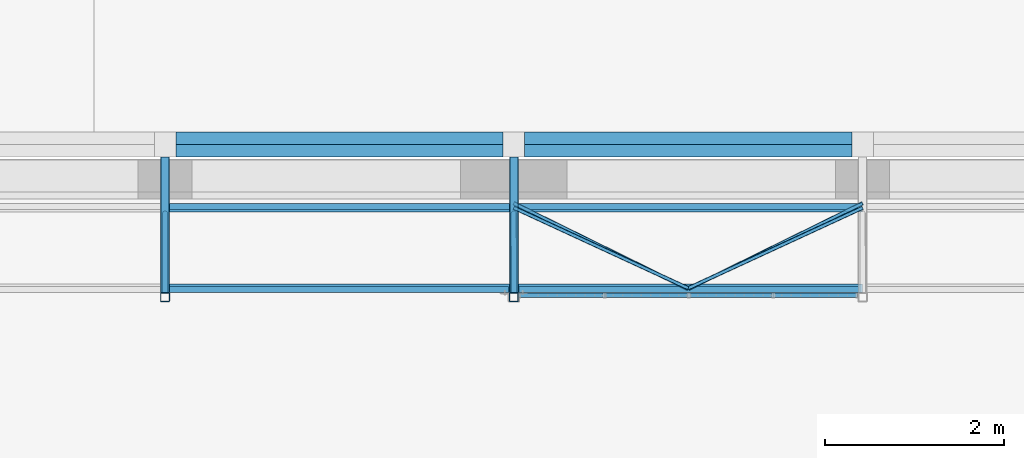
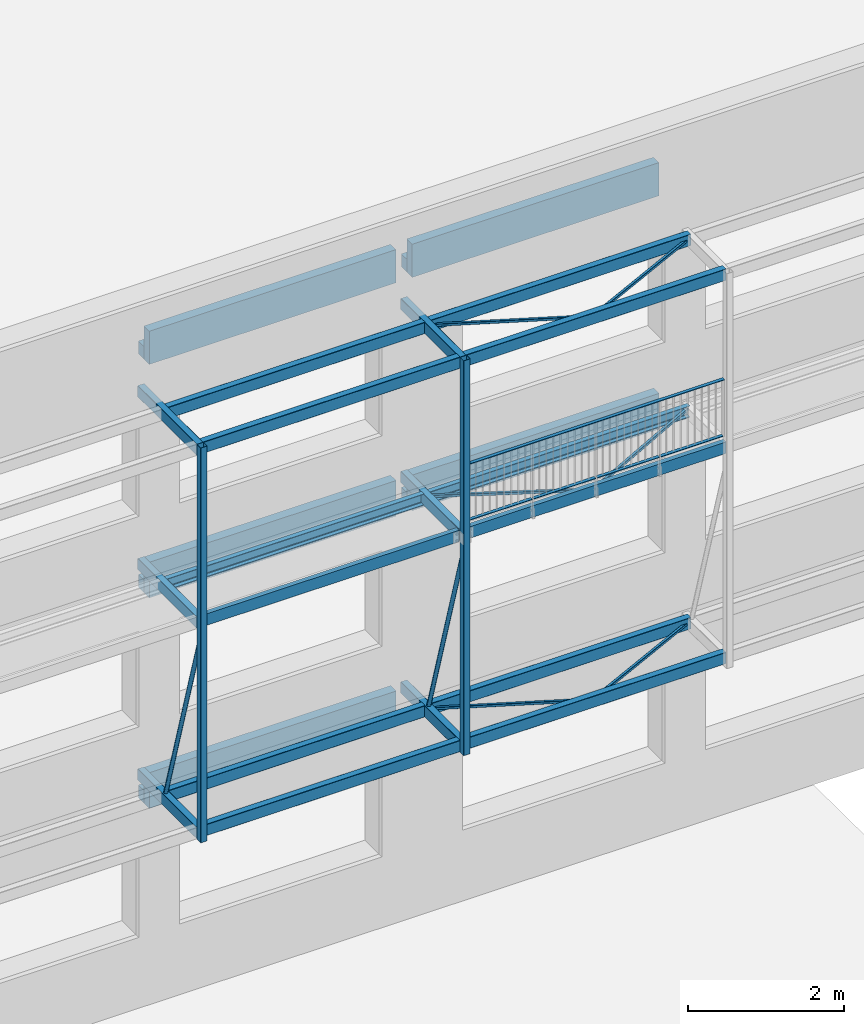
# One storey, part 22 of 78: 38 beams, 2 members, 31 elements without a shape of their own.
"""IFC2X3 building model written with IfcOpenShell, lengths in millimetres."""

import ifcopenshell
import ifcopenshell.guid

model = None  # the IFC model being written
_history = None  # IfcOwnerHistory: only IFC2X3 demands one
_inside = {}  # id of a spatial element -> (the spatial element, [elements in it])
_under = {}  # id of a project, library or spatial element -> (it, [spatial elements below it])
_declared = {}  # id of a project -> (the project, [libraries it declares])
_typed = {}  # id of a type object -> (the type object, [elements of that type])
_made_of = {}  # id of a material, layer set ... -> (it, [elements and type objects made of it])


def new_model(schema):
    """Start an empty IFC model of exactly this schema.

    Asked for "IFC4X3", IfcOpenShell would pick the latest addendum, in which some entities
    have other attributes; the version numbers below select the first issue.
    IFC2X3 requires an IfcOwnerHistory on every rooted entity: one is made here for all.
    """
    global model, _history
    if schema == "IFC4X3":
        model = ifcopenshell.file(schema_version=(4, 3, 0, 0))
    else:
        model = ifcopenshell.file(schema=schema)
    _inside.clear()
    _under.clear()
    _declared.clear()
    _typed.clear()
    _made_of.clear()
    _history = None
    if model.schema == "IFC2X3":
        org = make("IfcOrganization", Name="unknown")
        user = make(
            "IfcPersonAndOrganization",
            ThePerson=make("IfcPerson", FamilyName="unknown"),
            TheOrganization=org,
        )
        app = make(
            "IfcApplication",
            ApplicationDeveloper=org,
            Version="unknown",
            ApplicationFullName="unknown",
            ApplicationIdentifier="unknown",
        )
        _history = make(
            "IfcOwnerHistory",
            OwningUser=user,
            OwningApplication=app,
            ChangeAction="ADDED",
            CreationDate=0,
        )
    return model


def make(cls, **values):
    """One entity of the class cls with the attributes given. An attribute that is None is left unset."""
    return model.create_entity(
        cls, **{name: value for name, value in values.items() if value is not None}
    )


def rooted(cls, **values):
    """An entity with a GlobalId (a new one), such as an element, a storey or a relation."""
    return make(cls, GlobalId=ifcopenshell.guid.new(), OwnerHistory=_history, **values)


def si_unit(unit_type, name, prefix=None):
    """IfcSIUnit, for example si_unit("LENGTHUNIT", "METRE", prefix="MILLI")."""
    return make("IfcSIUnit", UnitType=unit_type, Prefix=prefix, Name=name)


def assignment(units):
    """IfcUnitAssignment: the units of a project."""
    return None if units is None else make("IfcUnitAssignment", Units=units)


def point(xyz):
    """IfcCartesianPoint."""
    return None if xyz is None else make("IfcCartesianPoint", Coordinates=xyz)


def direction(xyz):
    """IfcDirection."""
    return None if xyz is None else make("IfcDirection", DirectionRatios=xyz)


def frame(location, z_axis=None, x_axis=None):
    """IfcAxis2Placement3D, a coordinate frame: its origin and axes. An axis left out is left unset."""
    return make(
        "IfcAxis2Placement3D",
        Location=point(location),
        Axis=direction(z_axis),
        RefDirection=direction(x_axis),
    )


def frame_2d(location, x_axis=None):
    """IfcAxis2Placement2D, a coordinate frame in the plane: its origin and x axis."""
    return make(
        "IfcAxis2Placement2D", Location=point(location), RefDirection=direction(x_axis)
    )


def origin_with_axes():
    """The frame at (0, 0, 0) with the z axis (0, 0, 1) and the x axis (1, 0, 0) written out."""
    return frame((0.0, 0.0, 0.0), z_axis=(0.0, 0.0, 1.0), x_axis=(1.0, 0.0, 0.0))


def origin_2d_with_axis():
    """The frame at (0, 0) in the plane with the x axis (1, 0) written out."""
    return frame_2d((0.0, 0.0), x_axis=(1.0, 0.0))


def place(relative_to, where):
    """IfcLocalPlacement: puts the frame where relative to a parent placement (None: the world)."""
    return make(
        "IfcLocalPlacement", PlacementRelTo=relative_to, RelativePlacement=where
    )


def context(
    kind, dimensions, precision=None, world=None, true_north=None, identifier=None
):
    """IfcGeometricRepresentationContext, for example the 3D "Model" context."""
    return make(
        "IfcGeometricRepresentationContext",
        ContextIdentifier=identifier,
        ContextType=kind,
        CoordinateSpaceDimension=dimensions,
        Precision=precision,
        WorldCoordinateSystem=world,
        TrueNorth=true_north,
    )


def subcontext(parent, identifier, kind, view, scale=None):
    """IfcGeometricRepresentationSubContext, for example "Body" below "Model"."""
    return make(
        "IfcGeometricRepresentationSubContext",
        ContextIdentifier=identifier,
        ContextType=kind,
        ParentContext=parent,
        TargetScale=scale,
        TargetView=view,
    )


def project(units=None, contexts=None):
    """IfcProject with its units and contexts."""
    return rooted(
        "IfcProject",
        Name="project",
        RepresentationContexts=contexts,
        UnitsInContext=assignment(units),
    )


def spatial(cls, under=None, at=None, **own):
    """A site, building, storey or space (cls), placed at a placement, below another one or the project."""
    s = rooted(cls, ObjectPlacement=at, **own)
    if under is not None:
        _under.setdefault(under.id(), (under, []))[1].append(s)
    return s


def profile(cls, at=None, kind="AREA", **sizes):
    """A parametric profile (cls). Its sizes go by their IFC names, for example OverallWidth=200.0."""
    return make(cls, ProfileType=kind, Position=at, **sizes)


def rectangle(**sizes):
    """IfcRectangleProfileDef."""
    return profile("IfcRectangleProfileDef", **sizes)


def hollow_rectangle(**sizes):
    """IfcRectangleHollowProfileDef."""
    return profile("IfcRectangleHollowProfileDef", **sizes)


def hollow_circle(**sizes):
    """IfcCircleHollowProfileDef."""
    return profile("IfcCircleHollowProfileDef", **sizes)


def u_section(**sizes):
    """IfcUShapeProfileDef."""
    return profile("IfcUShapeProfileDef", **sizes)


def extrude(swept, where, along, depth):
    """IfcExtrudedAreaSolid: the profile swept, set in the frame where, extruded along a direction by depth."""
    return make(
        "IfcExtrudedAreaSolid",
        SweptArea=swept,
        Position=where,
        ExtrudedDirection=direction(along),
        Depth=depth,
    )


def boolean(op, a, b):
    """IfcBooleanResult of two solids."""
    return make("IfcBooleanResult", Operator=op, FirstOperand=a, SecondOperand=b)


def clip(a, b, op="DIFFERENCE"):
    """IfcBooleanClippingResult: the solid a cut by the half space b."""
    return make(
        "IfcBooleanClippingResult", Operator=op, FirstOperand=a, SecondOperand=b
    )


def halfspace(plane, agree):
    """IfcHalfSpaceSolid: all space on one side of the plane z = 0 of the frame plane."""
    return make(
        "IfcHalfSpaceSolid",
        BaseSurface=make("IfcPlane", Position=plane),
        AgreementFlag=agree,
    )


def shape(context_of_items, identifier, shape_type, items):
    """IfcShapeRepresentation: the items that make up one representation, for example the "Body"."""
    return make(
        "IfcShapeRepresentation",
        ContextOfItems=context_of_items,
        RepresentationIdentifier=identifier,
        RepresentationType=shape_type,
        Items=items,
    )


def material(Name=None, Category=None):
    """IfcMaterial."""
    return make("IfcMaterial", Name=Name, Category=Category)


def made_of(thing, what):
    """Note that an element or type object is made of a material, layer set ...; save() writes the relation."""
    if what is not None:
        _made_of.setdefault(what.id(), (what, []))[1].append(thing)
    return thing


def type_object(cls, material=None, **own):
    """A type object (cls), such as IfcWallType, which elements share."""
    return made_of(rooted(cls, **own), material)


def element(
    cls,
    number,
    at=None,
    inside=None,
    cuts=None,
    type_object=None,
    material=None,
    context=None,
    identifier="Body",
    shape_type=None,
    held_by="IfcProductDefinitionShape",
    body=None,
    shapes=None,
    **own,
):
    """One element of the class cls, such as IfcWall. Its Tag is "e" and its number.

    at: its placement. inside: the storey or other place that contains it. cuts: it is an
    opening in that element (IfcRelVoidsElement). A single representation is given by context,
    identifier, shape_type and body (its items); several are given by shapes. held_by: the class
    of the entity that holds the representations. save() writes the other relations.
    """
    e = rooted(cls, Tag="e%d" % number, ObjectPlacement=at, **own)
    if body is not None:
        shapes = [shape(context, identifier, shape_type, body)]
    if shapes is not None:
        e.Representation = make(held_by, Representations=shapes)
    if inside is not None:
        _inside.setdefault(inside.id(), (inside, []))[1].append(e)
    if cuts is not None:
        rooted(
            "IfcRelVoidsElement", RelatingBuildingElement=cuts, RelatedOpeningElement=e
        )
    if type_object is not None:
        _typed.setdefault(type_object.id(), (type_object, []))[1].append(e)
    return made_of(e, material)


def aggregate(whole, parts):
    """IfcRelAggregates: a whole, such as a stair, and the parts it consists of."""
    return rooted("IfcRelAggregates", RelatingObject=whole, RelatedObjects=parts)


def save(model, path):
    """Write the relations noted so far, then the file.

    IfcRelAggregates (storeys below a building ...), IfcRelContainedInSpatialStructure (elements
    in a storey), IfcRelDefinesByType, IfcRelAssociatesMaterial and IfcRelDeclares: one each for
    every whole, place, type object, material and project.
    """
    for whole, parts in _under.values():
        aggregate(whole, parts)
    for where, things in _inside.values():
        rooted(
            "IfcRelContainedInSpatialStructure",
            RelatedElements=things,
            RelatingStructure=where,
        )
    for kind, things in _typed.values():
        rooted("IfcRelDefinesByType", RelatedObjects=things, RelatingType=kind)
    for what, things in _made_of.values():
        rooted("IfcRelAssociatesMaterial", RelatedObjects=things, RelatingMaterial=what)
    for by, libraries in _declared.values():
        rooted("IfcRelDeclares", RelatingContext=by, RelatedDefinitions=libraries)
    model.write(path)


model = new_model("IFC2X3")

# Units and contexts
model_context = context("Model", 3, precision=1e-05, world=origin_with_axes())
body_context = subcontext(model_context, "Body", "Model", "MODEL_VIEW")
ifc_project = project(units=[si_unit("LENGTHUNIT", "METRE", prefix="MILLI"), si_unit("AREAUNIT", "SQUARE_METRE"), si_unit("VOLUMEUNIT", "CUBIC_METRE"), si_unit("MASSUNIT", "GRAM", prefix="KILO"), si_unit("TIMEUNIT", "SECOND"), si_unit("PLANEANGLEUNIT", "RADIAN"), si_unit("SOLIDANGLEUNIT", "STERADIAN"), si_unit("THERMODYNAMICTEMPERATUREUNIT", "DEGREE_CELSIUS"), si_unit("LUMINOUSINTENSITYUNIT", "LUMEN")], contexts=[model_context])

# Site, building, storey
site_placement = place(None, origin_with_axes())
site = spatial("IfcSite", under=ifc_project, at=site_placement, Name="Site", CompositionType="ELEMENT")
building_placement = place(site_placement, origin_with_axes())
building = spatial("IfcBuilding", under=site, at=building_placement, Name="Undefined", CompositionType="ELEMENT")
storey_placement = place(building_placement, origin_with_axes())
storey = spatial("IfcBuildingStorey", under=building, at=storey_placement, Name="Undefined", CompositionType="ELEMENT", Elevation=0.0)

# Assembly, beams
assembly_1_placement = place(storey_placement, origin_with_axes())
assembly_1 = element("IfcElementAssembly", 1, at=assembly_1_placement, inside=storey, Name="MAIN_COURANTE", AssemblyPlace="NOTDEFINED", PredefinedType="RIGID_FRAME")
ifc_material_1 = material(Name="STEEL/S235JR")
beam_type_1 = type_object("IfcBeamType", Name="PL10*50", PredefinedType="NOTDEFINED")
beam_1_placement = place(assembly_1_placement, frame((-18840.0, -8643.0, 160115.04), z_axis=(0.0, 1.0, 0.0), x_axis=(-1.0, 0.0, 0.0)))
solid_1 = boolean("DIFFERENCE", boolean("DIFFERENCE", extrude(rectangle(XDim=20.0, YDim=50.0, at=origin_2d_with_axis()), frame((10.0000000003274, 885.0, -2.18278728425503e-10), z_axis=(0.0, -1.0, 0.0), x_axis=(1.0, 0.0, 0.0)), (0.0, 0.0, 1.0), 1190.0), halfspace(frame((10.0000000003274, 875.0, -2.18278728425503e-11), z_axis=(0.0, 1.0, 0.0), x_axis=(0.0, 0.0, -1.0)), False)), halfspace(frame((-999.999999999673, -305.0, -2.18278728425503e-10), z_axis=(0.0, 1.0, 0.0), x_axis=(0.0, 0.0, -1.0)), True))
solid_2 = boolean("DIFFERENCE", boolean("DIFFERENCE", extrude(rectangle(XDim=20.0, YDim=50.0, at=origin_2d_with_axis()), frame((952.5, 885.0, 0.0), z_axis=(0.0, -1.0, 0.0), x_axis=(1.0, 0.0, 0.0)), (0.0, 0.0, 1.0), 1190.0), halfspace(frame((952.5, 875.0, 0.0), z_axis=(0.0, 1.0, 0.0), x_axis=(0.0, 0.0, -1.0)), False)), halfspace(frame((-57.5, -305.0, 0.0), z_axis=(0.0, 1.0, 0.0), x_axis=(0.0, 0.0, -1.0)), True))
solid_3 = boolean("DIFFERENCE", boolean("DIFFERENCE", extrude(rectangle(XDim=20.0, YDim=50.0, at=origin_2d_with_axis()), frame((1895.0, 885.0, 0.0), z_axis=(0.0, -1.0, 0.0), x_axis=(1.0, 0.0, 0.0)), (0.0, 0.0, 1.0), 1190.0), halfspace(frame((1895.0, 875.0, 0.0), z_axis=(0.0, 1.0, 0.0), x_axis=(0.0, 0.0, -1.0)), False)), halfspace(frame((884.999999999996, -305.0, 0.0), z_axis=(0.0, 1.0, 0.0), x_axis=(0.0, 0.0, -1.0)), True))
solid_4 = boolean("DIFFERENCE", boolean("DIFFERENCE", extrude(rectangle(XDim=20.0, YDim=50.0, at=origin_2d_with_axis()), frame((2837.5, 885.0, 0.0), z_axis=(0.0, -1.0, 0.0), x_axis=(1.0, 0.0, 0.0)), (0.0, 0.0, 1.0), 1190.0), halfspace(frame((2837.5, 875.0, 0.0), z_axis=(0.0, 1.0, 0.0), x_axis=(0.0, 0.0, -1.0)), False)), halfspace(frame((1827.5, -305.0, 0.0), z_axis=(0.0, 1.0, 0.0), x_axis=(0.0, 0.0, -1.0)), True))
solid_5 = boolean("DIFFERENCE", boolean("DIFFERENCE", extrude(rectangle(XDim=20.0, YDim=50.0, at=origin_2d_with_axis()), frame((3779.99999999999, 885.0, 0.0), z_axis=(0.0, -1.0, 0.0), x_axis=(1.0, 0.0, 0.0)), (0.0, 0.0, 1.0), 1190.0), halfspace(frame((3779.99999999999, 875.0, 0.0), z_axis=(0.0, 1.0, 0.0), x_axis=(0.0, 0.0, -1.0)), False)), halfspace(frame((2769.99999999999, -305.0, 0.0), z_axis=(0.0, 1.0, 0.0), x_axis=(0.0, 0.0, -1.0)), True))
beam_1 = element("IfcBeam", 2, at=beam_1_placement, type_object=beam_type_1, material=ifc_material_1, Name="LISSE", ObjectType="PL10*50", context=body_context, shape_type="CSG", body=[
    boolean("DIFFERENCE", boolean("DIFFERENCE", boolean("DIFFERENCE", boolean("DIFFERENCE", boolean("DIFFERENCE", extrude(rectangle(XDim=10.0, YDim=50.0, at=origin_2d_with_axis()), frame((3789.99999999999, 0.0, 0.0), z_axis=(-1.0, 0.0, 0.0), x_axis=(0.0, -1.0, 0.0)), (0.0, 0.0, 1.0), 3790.0), solid_1), solid_2), solid_3), solid_4), solid_5),
])
beam_2_placement = place(assembly_1_placement, frame((-22630.0, -8643.0, 160995.04), z_axis=(0.0, 1.0, 0.0), x_axis=(1.0, 0.0, 0.0)))
beam_2 = element("IfcBeam", 3, at=beam_2_placement, type_object=beam_type_1, material=ifc_material_1, Name="MAIN_COURANTE", ObjectType="PL10*50", context=body_context, shape_type="SweptSolid", body=[
    extrude(rectangle(XDim=10.0, YDim=50.0, at=origin_2d_with_axis()), frame((3789.99999999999, 0.0, 0.0), z_axis=(-1.0, 0.0, 0.0), x_axis=(0.0, -1.0, 0.0)), (0.0, 0.0, 1.0), 3790.0),
])
aggregate(assembly_1, [beam_1, beam_2])

# Assembly, beam
assembly_2_placement = place(storey_placement, origin_with_axes())
assembly_2 = element("IfcElementAssembly", 4, at=assembly_2_placement, inside=storey, Name="CONSOLE", AssemblyPlace="NOTDEFINED", PredefinedType="RIGID_FRAME")
ifc_material_2 = material(Name="STEEL/S275JR")
beam_type_2 = type_object("IfcBeamType", Name="TUBE-C-100*100*4", PredefinedType="NOTDEFINED")
beam_3_placement = place(assembly_2_placement, frame((-22685.0, -8663.0, 162680.04), z_axis=(0.0, 1.0, 0.0), x_axis=(0.0, 0.0, -1.0)))
beam_3 = element("IfcBeam", 5, at=beam_3_placement, type_object=beam_type_2, material=ifc_material_2, Name="CONSOLE", ObjectType="TUBE-C-100*100*4", context=body_context, shape_type="SweptSolid", body=[
    extrude(hollow_rectangle(XDim=100.0, YDim=100.0, WallThickness=4.0, InnerFilletRadius=4.0, OuterFilletRadius=8.0, at=origin_2d_with_axis()), frame((6190.0, 0.0, 0.0), z_axis=(-1.0, 0.0, 0.0), x_axis=(0.0, -1.0, 0.0)), (0.0, 0.0, 1.0), 6190.0),
])

assembly_3_placement = place(storey_placement, origin_with_axes())
assembly_3 = element("IfcElementAssembly", 6, at=assembly_3_placement, inside=storey, Name="CONSOLE", AssemblyPlace="NOTDEFINED", PredefinedType="RIGID_FRAME")
beam_4_placement = place(assembly_3_placement, frame((-26585.0, -8663.0, 162680.04), z_axis=(0.0, 1.0, 0.0), x_axis=(0.0, 0.0, -1.0)))
beam_4 = element("IfcBeam", 7, at=beam_4_placement, type_object=beam_type_2, material=ifc_material_2, Name="CONSOLE", ObjectType="TUBE-C-100*100*4", context=body_context, shape_type="SweptSolid", body=[
    extrude(hollow_rectangle(XDim=100.0, YDim=100.0, WallThickness=4.0, InnerFilletRadius=4.0, OuterFilletRadius=8.0, at=origin_2d_with_axis()), frame((6190.0, 0.0, 0.0), z_axis=(-1.0, 0.0, 0.0), x_axis=(0.0, -1.0, 0.0)), (0.0, 0.0, 1.0), 6190.0),
])

assembly_4_placement = place(storey_placement, origin_with_axes())
assembly_4 = element("IfcElementAssembly", 8, at=assembly_4_placement, inside=storey, AssemblyPlace="NOTDEFINED", PredefinedType="RIGID_FRAME")
beam_type_3 = type_object("IfcBeamType", Name="TUBE-R-180*100*4", PredefinedType="NOTDEFINED")
beam_5_placement = place(assembly_4_placement, frame((-22685.0, -7663.00047683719, 162590.054194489), z_axis=(0.0, 0.0, 1.0), x_axis=(1.0, 0.0, 0.0)))
beam_5 = element("IfcBeam", 9, at=beam_5_placement, type_object=beam_type_3, material=ifc_material_2, Name="SOLIVE", ObjectType="TUBE-R-180*100*4", context=body_context, shape_type="SweptSolid", body=[
    extrude(hollow_rectangle(XDim=100.0, YDim=180.0, WallThickness=4.0, InnerFilletRadius=4.0, OuterFilletRadius=8.0, at=origin_2d_with_axis()), frame((3899.99999999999, 0.0, 0.0), z_axis=(-1.0, 0.0, 0.0), x_axis=(0.0, -1.0, 0.0)), (0.0, 0.0, 1.0), 3900.0),
])
aggregate(assembly_4, [beam_5])

assembly_5_placement = place(storey_placement, origin_with_axes())
assembly_5 = element("IfcElementAssembly", 10, at=assembly_5_placement, inside=storey, AssemblyPlace="NOTDEFINED", PredefinedType="RIGID_FRAME")
beam_6_placement = place(assembly_5_placement, frame((-26585.0, -7663.00047683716, 162590.054194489), z_axis=(0.0, 0.0, 1.0), x_axis=(1.0, 0.0, 0.0)))
beam_6 = element("IfcBeam", 11, at=beam_6_placement, type_object=beam_type_3, material=ifc_material_2, Name="SOLIVE", ObjectType="TUBE-R-180*100*4", context=body_context, shape_type="SweptSolid", body=[
    extrude(hollow_rectangle(XDim=100.0, YDim=180.0, WallThickness=4.0, InnerFilletRadius=4.0, OuterFilletRadius=8.0, at=origin_2d_with_axis()), frame((3899.99999999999, 0.0, 0.0), z_axis=(-1.0, 0.0, 0.0), x_axis=(0.0, -1.0, 0.0)), (0.0, 0.0, 1.0), 3900.0),
])
aggregate(assembly_5, [beam_6])

assembly_6_placement = place(storey_placement, origin_with_axes())
assembly_6 = element("IfcElementAssembly", 12, at=assembly_6_placement, inside=storey, AssemblyPlace="NOTDEFINED", PredefinedType="RIGID_FRAME")
beam_7_placement = place(assembly_6_placement, frame((-22685.0, -8563.00047683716, 162590.054194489), z_axis=(0.0, 0.0, 1.0), x_axis=(1.0, 0.0, 0.0)))
beam_7 = element("IfcBeam", 13, at=beam_7_placement, type_object=beam_type_3, material=ifc_material_2, Name="SOLIVE", ObjectType="TUBE-R-180*100*4", context=body_context, shape_type="SweptSolid", body=[
    extrude(hollow_rectangle(XDim=100.0, YDim=180.0, WallThickness=4.0, InnerFilletRadius=4.0, OuterFilletRadius=8.0, at=origin_2d_with_axis()), frame((3899.99999999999, 0.0, 0.0), z_axis=(-1.0, 0.0, 0.0), x_axis=(0.0, -1.0, 0.0)), (0.0, 0.0, 1.0), 3900.0),
])
aggregate(assembly_6, [beam_7])

assembly_7_placement = place(storey_placement, origin_with_axes())
assembly_7 = element("IfcElementAssembly", 14, at=assembly_7_placement, inside=storey, AssemblyPlace="NOTDEFINED", PredefinedType="RIGID_FRAME")
beam_8_placement = place(assembly_7_placement, frame((-26585.0, -8563.00047683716, 162590.054194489), z_axis=(0.0, 0.0, 1.0), x_axis=(1.0, 0.0, 0.0)))
beam_8 = element("IfcBeam", 15, at=beam_8_placement, type_object=beam_type_3, material=ifc_material_2, Name="SOLIVE", ObjectType="TUBE-R-180*100*4", context=body_context, shape_type="SweptSolid", body=[
    extrude(hollow_rectangle(XDim=100.0, YDim=180.0, WallThickness=4.0, InnerFilletRadius=4.0, OuterFilletRadius=8.0, at=origin_2d_with_axis()), frame((3899.99999999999, 0.0, 0.0), z_axis=(-1.0, 0.0, 0.0), x_axis=(0.0, -1.0, 0.0)), (0.0, 0.0, 1.0), 3900.0),
])
aggregate(assembly_7, [beam_8])

assembly_8_placement = place(storey_placement, origin_with_axes())
assembly_8 = element("IfcElementAssembly", 16, at=assembly_8_placement, inside=storey, AssemblyPlace="NOTDEFINED", PredefinedType="RIGID_FRAME")
beam_9_placement = place(assembly_8_placement, frame((-22685.0, -7663.00047683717, 156580.054194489), z_axis=(0.0, 0.0, 1.0), x_axis=(1.0, 0.0, 0.0)))
beam_9 = element("IfcBeam", 17, at=beam_9_placement, type_object=beam_type_3, material=ifc_material_2, Name="SOLIVE", ObjectType="TUBE-R-180*100*4", context=body_context, shape_type="SweptSolid", body=[
    extrude(hollow_rectangle(XDim=100.0, YDim=180.0, WallThickness=4.0, InnerFilletRadius=4.0, OuterFilletRadius=8.0, at=origin_2d_with_axis()), frame((3899.99999999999, 0.0, 0.0), z_axis=(-1.0, 0.0, 0.0), x_axis=(0.0, -1.0, 0.0)), (0.0, 0.0, 1.0), 3900.0),
])
aggregate(assembly_8, [beam_9])

assembly_9_placement = place(storey_placement, origin_with_axes())
assembly_9 = element("IfcElementAssembly", 18, at=assembly_9_placement, inside=storey, AssemblyPlace="NOTDEFINED", PredefinedType="RIGID_FRAME")
beam_10_placement = place(assembly_9_placement, frame((-26585.0, -7663.00047683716, 156580.054194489), z_axis=(0.0, 0.0, 1.0), x_axis=(1.0, 0.0, 0.0)))
beam_10 = element("IfcBeam", 19, at=beam_10_placement, type_object=beam_type_3, material=ifc_material_2, Name="SOLIVE", ObjectType="TUBE-R-180*100*4", context=body_context, shape_type="SweptSolid", body=[
    extrude(hollow_rectangle(XDim=100.0, YDim=180.0, WallThickness=4.0, InnerFilletRadius=4.0, OuterFilletRadius=8.0, at=origin_2d_with_axis()), frame((3899.99999999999, 0.0, 0.0), z_axis=(-1.0, 0.0, 0.0), x_axis=(0.0, -1.0, 0.0)), (0.0, 0.0, 1.0), 3900.0),
])
aggregate(assembly_9, [beam_10])

assembly_10_placement = place(storey_placement, origin_with_axes())
assembly_10 = element("IfcElementAssembly", 20, at=assembly_10_placement, inside=storey, AssemblyPlace="NOTDEFINED", PredefinedType="RIGID_FRAME")
beam_11_placement = place(assembly_10_placement, frame((-22685.0, -8563.00047683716, 156580.054194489), z_axis=(0.0, 0.0, 1.0), x_axis=(1.0, 0.0, 0.0)))
beam_11 = element("IfcBeam", 21, at=beam_11_placement, type_object=beam_type_3, material=ifc_material_2, Name="SOLIVE", ObjectType="TUBE-R-180*100*4", context=body_context, shape_type="SweptSolid", body=[
    extrude(hollow_rectangle(XDim=100.0, YDim=180.0, WallThickness=4.0, InnerFilletRadius=4.0, OuterFilletRadius=8.0, at=origin_2d_with_axis()), frame((3899.99999999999, 0.0, 0.0), z_axis=(-1.0, 0.0, 0.0), x_axis=(0.0, -1.0, 0.0)), (0.0, 0.0, 1.0), 3900.0),
])
aggregate(assembly_10, [beam_11])

assembly_11_placement = place(storey_placement, origin_with_axes())
assembly_11 = element("IfcElementAssembly", 22, at=assembly_11_placement, inside=storey, AssemblyPlace="NOTDEFINED", PredefinedType="RIGID_FRAME")
beam_12_placement = place(assembly_11_placement, frame((-26585.0, -8563.00047683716, 156580.054194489), z_axis=(0.0, 0.0, 1.0), x_axis=(1.0, 0.0, 0.0)))
beam_12 = element("IfcBeam", 23, at=beam_12_placement, type_object=beam_type_3, material=ifc_material_2, Name="SOLIVE", ObjectType="TUBE-R-180*100*4", context=body_context, shape_type="SweptSolid", body=[
    extrude(hollow_rectangle(XDim=100.0, YDim=180.0, WallThickness=4.0, InnerFilletRadius=4.0, OuterFilletRadius=8.0, at=origin_2d_with_axis()), frame((3899.99999999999, 0.0, 0.0), z_axis=(-1.0, 0.0, 0.0), x_axis=(0.0, -1.0, 0.0)), (0.0, 0.0, 1.0), 3900.0),
])
aggregate(assembly_11, [beam_12])

# Beam
beam_13_placement = place(assembly_2_placement, frame((-22685.0, -8613.0, 162590.04), z_axis=(0.0, 0.0, 1.0), x_axis=(0.0, 1.0, 0.0)))
beam_13 = element("IfcBeam", 24, at=beam_13_placement, type_object=beam_type_3, material=ifc_material_2, Name="CONSOLE", ObjectType="TUBE-R-180*100*4", context=body_context, shape_type="Clipping", body=[
    clip(extrude(hollow_rectangle(XDim=100.0, YDim=180.0, WallThickness=4.0, InnerFilletRadius=4.0, OuterFilletRadius=8.0, at=origin_2d_with_axis()), frame((1518.0000000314, 0.0, -1.28579601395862e-18), z_axis=(-1.0, 0.0, 0.0), x_axis=(0.0, -1.0, 0.0)), (0.0, 0.0, 1.0), 1518.0), halfspace(frame((0.0, 0.0, 1090.0), z_axis=(-1.0, 0.0, 0.0), x_axis=(0.0, -1.0, 0.0)), False)),
])

beam_14_placement = place(assembly_2_placement, frame((-22685.0, -8613.0, 156580.04), z_axis=(0.0, 0.0, 1.0), x_axis=(0.0, 1.0, 0.0)))
beam_14 = element("IfcBeam", 25, at=beam_14_placement, type_object=beam_type_3, material=ifc_material_2, Name="CONSOLE", ObjectType="TUBE-R-180*100*4", context=body_context, shape_type="Clipping", body=[
    clip(extrude(hollow_rectangle(XDim=100.0, YDim=180.0, WallThickness=4.0, InnerFilletRadius=4.0, OuterFilletRadius=8.0, at=origin_2d_with_axis()), frame((1518.0000000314, 0.0, -1.28579601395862e-18), z_axis=(-1.0, 0.0, 0.0), x_axis=(0.0, -1.0, 0.0)), (0.0, 0.0, 1.0), 1518.0), halfspace(frame((0.0, 0.0, 1090.0), z_axis=(-1.0, 0.0, 0.0), x_axis=(0.0, -1.0, 0.0)), False)),
])

beam_15_placement = place(assembly_2_placement, frame((-22685.0, -8613.0, 159880.04), z_axis=(0.0, 0.0, 1.0), x_axis=(0.0, 1.0, 0.0)))
beam_15 = element("IfcBeam", 26, at=beam_15_placement, type_object=beam_type_3, material=ifc_material_2, Name="CONSOLE", ObjectType="TUBE-R-180*100*4", context=body_context, shape_type="Clipping", body=[
    clip(extrude(hollow_rectangle(XDim=100.0, YDim=180.0, WallThickness=4.0, InnerFilletRadius=4.0, OuterFilletRadius=8.0, at=origin_2d_with_axis()), frame((1518.0000000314, 0.0, -1.28579601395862e-18), z_axis=(-1.0, 0.0, 0.0), x_axis=(0.0, -1.0, 0.0)), (0.0, 0.0, 1.0), 1518.0), halfspace(frame((0.0, 0.0, 1090.0), z_axis=(-1.0, 0.0, 0.0), x_axis=(0.0, -1.0, 0.0)), False)),
])

beam_16_placement = place(assembly_3_placement, frame((-26585.0, -8613.0, 162590.04), z_axis=(0.0, 0.0, 1.0), x_axis=(0.0, 1.0, 0.0)))
beam_16 = element("IfcBeam", 27, at=beam_16_placement, type_object=beam_type_3, material=ifc_material_2, Name="CONSOLE", ObjectType="TUBE-R-180*100*4", context=body_context, shape_type="Clipping", body=[
    clip(extrude(hollow_rectangle(XDim=100.0, YDim=180.0, WallThickness=4.0, InnerFilletRadius=4.0, OuterFilletRadius=8.0, at=origin_2d_with_axis()), frame((1518.0000000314, 0.0, -1.28579601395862e-18), z_axis=(-1.0, 0.0, 0.0), x_axis=(0.0, -1.0, 0.0)), (0.0, 0.0, 1.0), 1518.0), halfspace(frame((0.0, 0.0, 1090.0), z_axis=(-1.0, 0.0, 0.0), x_axis=(0.0, -1.0, 0.0)), False)),
])

beam_17_placement = place(assembly_3_placement, frame((-26585.0, -8613.0, 156580.04), z_axis=(0.0, 0.0, 1.0), x_axis=(0.0, 1.0, 0.0)))
beam_17 = element("IfcBeam", 28, at=beam_17_placement, type_object=beam_type_3, material=ifc_material_2, Name="CONSOLE", ObjectType="TUBE-R-180*100*4", context=body_context, shape_type="Clipping", body=[
    clip(extrude(hollow_rectangle(XDim=100.0, YDim=180.0, WallThickness=4.0, InnerFilletRadius=4.0, OuterFilletRadius=8.0, at=origin_2d_with_axis()), frame((1518.0000000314, 0.0, -1.28579601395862e-18), z_axis=(-1.0, 0.0, 0.0), x_axis=(0.0, -1.0, 0.0)), (0.0, 0.0, 1.0), 1518.0), halfspace(frame((0.0, 0.0, 1090.0), z_axis=(-1.0, 0.0, 0.0), x_axis=(0.0, -1.0, 0.0)), False)),
])

beam_18_placement = place(assembly_3_placement, frame((-26585.0, -8613.0, 159880.04), z_axis=(0.0, 0.0, 1.0), x_axis=(0.0, 1.0, 0.0)))
beam_18 = element("IfcBeam", 29, at=beam_18_placement, type_object=beam_type_3, material=ifc_material_2, Name="CONSOLE", ObjectType="TUBE-R-180*100*4", context=body_context, shape_type="Clipping", body=[
    clip(extrude(hollow_rectangle(XDim=100.0, YDim=180.0, WallThickness=4.0, InnerFilletRadius=4.0, OuterFilletRadius=8.0, at=origin_2d_with_axis()), frame((1518.0000000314, 0.0, -1.28579601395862e-18), z_axis=(-1.0, 0.0, 0.0), x_axis=(0.0, -1.0, 0.0)), (0.0, 0.0, 1.0), 1518.0), halfspace(frame((0.0, 0.0, 1090.0), z_axis=(-1.0, 0.0, 0.0), x_axis=(0.0, -1.0, 0.0)), False)),
])

# Assembly, beam
assembly_12_placement = place(storey_placement, origin_with_axes())
assembly_12 = element("IfcElementAssembly", 30, at=assembly_12_placement, inside=storey, AssemblyPlace="NOTDEFINED", PredefinedType="RIGID_FRAME")
beam_type_4 = type_object("IfcBeamType", Name="TUBE-C-40*40*3", PredefinedType="NOTDEFINED")
beam_19_placement = place(assembly_12_placement, frame((-20735.0, -8563.00047683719, 162590.054194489), z_axis=(0.0, 0.0, 1.0), x_axis=(0.907959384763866, 0.419058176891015, 0.0)))
beam_19 = element("IfcBeam", 31, at=beam_19_placement, type_object=beam_type_4, material=ifc_material_2, Name="STAB", ObjectType="TUBE-C-40*40*3", context=body_context, shape_type="SweptSolid", body=[
    extrude(hollow_rectangle(XDim=40.0, YDim=40.0, WallThickness=3.0, InnerFilletRadius=3.0, OuterFilletRadius=6.0, at=origin_2d_with_axis()), frame((2147.67315947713, 2.27373675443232e-13, 2.91038304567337e-11), z_axis=(-1.0, 0.0, 0.0), x_axis=(0.0, -1.0, 0.0)), (0.0, 0.0, 1.0), 2147.67),
])
aggregate(assembly_12, [beam_19])

assembly_13_placement = place(storey_placement, origin_with_axes())
assembly_13 = element("IfcElementAssembly", 32, at=assembly_13_placement, inside=storey, AssemblyPlace="NOTDEFINED", PredefinedType="RIGID_FRAME")
beam_20_placement = place(assembly_13_placement, frame((-22685.0, -7663.00047683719, 162590.054194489), z_axis=(0.0, 0.0, 1.0), x_axis=(0.907959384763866, -0.419058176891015, 0.0)))
beam_20 = element("IfcBeam", 33, at=beam_20_placement, type_object=beam_type_4, material=ifc_material_2, Name="STAB", ObjectType="TUBE-C-40*40*3", context=body_context, shape_type="SweptSolid", body=[
    extrude(hollow_rectangle(XDim=40.0, YDim=40.0, WallThickness=3.0, InnerFilletRadius=3.0, OuterFilletRadius=6.0, at=origin_2d_with_axis()), frame((2147.67315947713, 2.27373675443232e-13, 2.91038304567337e-11), z_axis=(-1.0, 0.0, 0.0), x_axis=(0.0, -1.0, 0.0)), (0.0, 0.0, 1.0), 2147.67),
])
aggregate(assembly_13, [beam_20])

assembly_14_placement = place(storey_placement, origin_with_axes())
assembly_14 = element("IfcElementAssembly", 34, at=assembly_14_placement, inside=storey, AssemblyPlace="NOTDEFINED", PredefinedType="RIGID_FRAME")
beam_21_placement = place(assembly_14_placement, frame((-20735.0, -8563.00047683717, 156580.054194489), z_axis=(0.0, 0.0, 1.0), x_axis=(0.907959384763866, 0.419058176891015, 0.0)))
beam_21 = element("IfcBeam", 35, at=beam_21_placement, type_object=beam_type_4, material=ifc_material_2, Name="STAB", ObjectType="TUBE-C-40*40*3", context=body_context, shape_type="SweptSolid", body=[
    extrude(hollow_rectangle(XDim=40.0, YDim=40.0, WallThickness=3.0, InnerFilletRadius=3.0, OuterFilletRadius=6.0, at=origin_2d_with_axis()), frame((2147.67315947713, 2.27373675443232e-13, 2.91038304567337e-11), z_axis=(-1.0, 0.0, 0.0), x_axis=(0.0, -1.0, 0.0)), (0.0, 0.0, 1.0), 2147.67),
])
aggregate(assembly_14, [beam_21])

assembly_15_placement = place(storey_placement, origin_with_axes())
assembly_15 = element("IfcElementAssembly", 36, at=assembly_15_placement, inside=storey, AssemblyPlace="NOTDEFINED", PredefinedType="RIGID_FRAME")
beam_22_placement = place(assembly_15_placement, frame((-22685.0, -7663.00047683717, 156580.054194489), z_axis=(0.0, 0.0, 1.0), x_axis=(0.907959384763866, -0.419058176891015, 0.0)))
beam_22 = element("IfcBeam", 37, at=beam_22_placement, type_object=beam_type_4, material=ifc_material_2, Name="STAB", ObjectType="TUBE-C-40*40*3", context=body_context, shape_type="SweptSolid", body=[
    extrude(hollow_rectangle(XDim=40.0, YDim=40.0, WallThickness=3.0, InnerFilletRadius=3.0, OuterFilletRadius=6.0, at=origin_2d_with_axis()), frame((2147.67315947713, 2.27373675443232e-13, 2.91038304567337e-11), z_axis=(-1.0, 0.0, 0.0), x_axis=(0.0, -1.0, 0.0)), (0.0, 0.0, 1.0), 2147.67),
])
aggregate(assembly_15, [beam_22])

assembly_16_placement = place(storey_placement, origin_with_axes())
assembly_16 = element("IfcElementAssembly", 38, at=assembly_16_placement, inside=storey, Name="POUTRE", AssemblyPlace="NOTDEFINED", PredefinedType="RIGID_FRAME")
beam_23_placement = place(assembly_16_placement, frame((-20735.0, -8572.0, 159880.04), z_axis=(0.0, 0.0, 1.0), x_axis=(0.897352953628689, 0.441313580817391, 0.0)))
beam_23 = element("IfcBeam", 39, at=beam_23_placement, type_object=beam_type_4, material=ifc_material_2, Name="STAB", ObjectType="TUBE-C-40*40*3", context=body_context, shape_type="SweptSolid", body=[
    extrude(hollow_rectangle(XDim=40.0, YDim=40.0, WallThickness=3.0, InnerFilletRadius=3.0, OuterFilletRadius=6.0, at=origin_2d_with_axis()), frame((2173.05798357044, 2.27373675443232e-13, 2.91038304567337e-11), z_axis=(-1.0, 0.0, 0.0), x_axis=(0.0, -1.0, 0.0)), (0.0, 0.0, 1.0), 2173.06),
])
aggregate(assembly_16, [beam_23])

assembly_17_placement = place(storey_placement, origin_with_axes())
assembly_17 = element("IfcElementAssembly", 40, at=assembly_17_placement, inside=storey, Name="POUTRE", AssemblyPlace="NOTDEFINED", PredefinedType="RIGID_FRAME")
beam_24_placement = place(assembly_17_placement, frame((-22685.0, -7613.0, 159880.04), z_axis=(0.0, 0.0, 1.0), x_axis=(0.897352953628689, -0.441313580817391, 0.0)))
beam_24 = element("IfcBeam", 41, at=beam_24_placement, type_object=beam_type_4, material=ifc_material_2, Name="STAB", ObjectType="TUBE-C-40*40*3", context=body_context, shape_type="SweptSolid", body=[
    extrude(hollow_rectangle(XDim=40.0, YDim=40.0, WallThickness=3.0, InnerFilletRadius=3.0, OuterFilletRadius=6.0, at=origin_2d_with_axis()), frame((2173.05798357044, 2.27373675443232e-13, 2.91038304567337e-11), z_axis=(-1.0, 0.0, 0.0), x_axis=(0.0, -1.0, 0.0)), (0.0, 0.0, 1.0), 2173.06),
])
aggregate(assembly_17, [beam_24])

# Member
member_type = type_object("IfcMemberType", Name="TUBE-60.3*4", PredefinedType="NOTDEFINED")
member_1_placement = place(assembly_2_placement, frame((-22685.0, -8703.00000000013, 159880.039999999), z_axis=(0.0, -0.957024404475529, -0.290007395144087), x_axis=(0.0, 0.290007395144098, -0.957024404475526)))
member_1 = element("IfcMember", 42, at=member_1_placement, type_object=member_type, material=ifc_material_2, Name="STAB", ObjectType="TUBE-60.3*4", context=body_context, shape_type="Clipping", body=[
    clip(clip(extrude(hollow_circle(Radius=30.14999962, WallThickness=4.0, at=origin_2d_with_axis()), frame((3463.86411679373, 0.0, 0.0), z_axis=(-1.0, 0.0, 0.0), x_axis=(0.0, -1.0, 0.0)), (0.0, 0.0, 1.0), 3463.86), halfspace(frame((2808.14160878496, 0.0, 1801.81594648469), z_axis=(0.957024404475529, 0.0, 0.290007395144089), x_axis=(0.0, 1.0, 0.0)), False)), halfspace(frame((-939.291695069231, 0.0, -378.6753358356), z_axis=(-0.290007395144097, 0.0, 0.957024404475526), x_axis=(0.0, 1.0, 0.0)), False)),
])

aggregate(assembly_2, [member_1, beam_3, beam_13, beam_14, beam_15])

member_2_placement = place(assembly_3_placement, frame((-26585.0, -8703.00000000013, 159880.039999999), z_axis=(0.0, -0.957024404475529, -0.290007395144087), x_axis=(0.0, 0.290007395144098, -0.957024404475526)))
member_2 = element("IfcMember", 43, at=member_2_placement, type_object=member_type, material=ifc_material_2, Name="STAB", ObjectType="TUBE-60.3*4", context=body_context, shape_type="Clipping", body=[
    clip(clip(extrude(hollow_circle(Radius=30.14999962, WallThickness=4.0, at=origin_2d_with_axis()), frame((3463.86411679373, 0.0, 0.0), z_axis=(-1.0, 0.0, 0.0), x_axis=(0.0, -1.0, 0.0)), (0.0, 0.0, 1.0), 3463.86), halfspace(frame((2808.14160878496, 0.0, 1801.81594648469), z_axis=(0.957024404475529, 0.0, 0.290007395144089), x_axis=(0.0, 1.0, 0.0)), False)), halfspace(frame((-939.291695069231, 0.0, -378.6753358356), z_axis=(-0.290007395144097, 0.0, 0.957024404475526), x_axis=(0.0, 1.0, 0.0)), False)),
])

aggregate(assembly_3, [member_2, beam_4, beam_16, beam_17, beam_18])

# Assembly, beam
assembly_18_placement = place(storey_placement, origin_with_axes())
assembly_18 = element("IfcElementAssembly", 44, at=assembly_18_placement, inside=storey, AssemblyPlace="NOTDEFINED", PredefinedType="RIGID_FRAME")
beam_type_5 = type_object("IfcBeamType", Name="UPN180", PredefinedType="NOTDEFINED")
beam_25_placement = place(assembly_18_placement, frame((-22685.0, -7648.0, 159880.04), z_axis=(0.0, 0.0, 1.0), x_axis=(1.0, 0.0, 0.0)))
beam_25 = element("IfcBeam", 45, at=beam_25_placement, type_object=beam_type_5, material=ifc_material_2, Name="SOLIVE", ObjectType="UPN180", context=body_context, shape_type="SweptSolid", body=[
    extrude(u_section(Depth=180.0, FlangeWidth=70.0, WebThickness=8.0, FlangeThickness=11.0, FilletRadius=11.0, EdgeRadius=5.5, FlangeSlope=0.0798299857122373, at=origin_2d_with_axis()), frame((3899.99999999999, 0.0, 0.0), z_axis=(-1.0, 0.0, 0.0), x_axis=(0.0, -1.0, 0.0)), (0.0, 0.0, 1.0), 3900.0),
])
aggregate(assembly_18, [beam_25])

assembly_19_placement = place(storey_placement, origin_with_axes())
assembly_19 = element("IfcElementAssembly", 46, at=assembly_19_placement, inside=storey, AssemblyPlace="NOTDEFINED", PredefinedType="RIGID_FRAME")
beam_26_placement = place(assembly_19_placement, frame((-26585.0, -7648.0, 159880.04), z_axis=(0.0, 0.0, 1.0), x_axis=(1.0, 0.0, 0.0)))
beam_26 = element("IfcBeam", 47, at=beam_26_placement, type_object=beam_type_5, material=ifc_material_2, Name="SOLIVE", ObjectType="UPN180", context=body_context, shape_type="SweptSolid", body=[
    extrude(u_section(Depth=180.0, FlangeWidth=70.0, WebThickness=8.0, FlangeThickness=11.0, FilletRadius=11.0, EdgeRadius=5.5, FlangeSlope=0.0798299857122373, at=origin_2d_with_axis()), frame((3899.99999999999, 0.0, 0.0), z_axis=(-1.0, 0.0, 0.0), x_axis=(0.0, -1.0, 0.0)), (0.0, 0.0, 1.0), 3900.0),
])
aggregate(assembly_19, [beam_26])

assembly_20_placement = place(storey_placement, origin_with_axes())
assembly_20 = element("IfcElementAssembly", 48, at=assembly_20_placement, inside=storey, AssemblyPlace="NOTDEFINED", PredefinedType="RIGID_FRAME")
beam_27_placement = place(assembly_20_placement, frame((-22685.0, -8578.0, 159880.04), z_axis=(0.0, 0.0, -1.0), x_axis=(1.0, 0.0, 0.0)))
beam_27 = element("IfcBeam", 49, at=beam_27_placement, type_object=beam_type_5, material=ifc_material_2, Name="SOLIVE", ObjectType="UPN180", context=body_context, shape_type="Clipping", body=[
    clip(extrude(u_section(Depth=180.0, FlangeWidth=70.0, WebThickness=8.0, FlangeThickness=11.0, FilletRadius=11.0, EdgeRadius=5.5, FlangeSlope=0.0798299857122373, at=origin_2d_with_axis()), frame((3899.99999999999, 0.0, 0.0), z_axis=(-1.0, 0.0, 0.0), x_axis=(0.0, -1.0, 0.0)), (0.0, 0.0, 1.0), 3900.0), halfspace(frame((60.0000000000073, -35.0, -90.0), z_axis=(-1.0, 0.0, 0.0), x_axis=(0.0, 1.0, 0.0)), False)),
])
aggregate(assembly_20, [beam_27])

assembly_21_placement = place(storey_placement, origin_with_axes())
assembly_21 = element("IfcElementAssembly", 50, at=assembly_21_placement, inside=storey, AssemblyPlace="NOTDEFINED", PredefinedType="RIGID_FRAME")
beam_28_placement = place(assembly_21_placement, frame((-26585.0, -8578.0, 159880.04), z_axis=(0.0, 0.0, -1.0), x_axis=(1.0, 0.0, 0.0)))
beam_28 = element("IfcBeam", 51, at=beam_28_placement, type_object=beam_type_5, material=ifc_material_2, Name="SOLIVE", ObjectType="UPN180", context=body_context, shape_type="Clipping", body=[
    clip(extrude(u_section(Depth=180.0, FlangeWidth=70.0, WebThickness=8.0, FlangeThickness=11.0, FilletRadius=11.0, EdgeRadius=5.5, FlangeSlope=0.0798299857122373, at=origin_2d_with_axis()), frame((3899.99999999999, 0.0, 0.0), z_axis=(-1.0, 0.0, 0.0), x_axis=(0.0, -1.0, 0.0)), (0.0, 0.0, 1.0), 3900.0), halfspace(frame((3840.00000000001, -35.0, -90.0), z_axis=(1.0, 0.0, 0.0), x_axis=(0.0, 0.0, 1.0)), False)),
])
aggregate(assembly_21, [beam_28])

assembly_22_placement = place(storey_placement, origin_with_axes())
assembly_22 = element("IfcElementAssembly", 52, at=assembly_22_placement, inside=storey, Name="POUTRE", AssemblyPlace="NOTDEFINED", PredefinedType="NOTDEFINED")
ifc_material_3 = material(Name="TIMBER/CHENE")
beam_type_6 = type_object("IfcBeamType", Name="520*140", PredefinedType="NOTDEFINED")
beam_29_placement = place(assembly_22_placement, frame((-22803.4324645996, -7025.00040054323, 163210.042724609), z_axis=(0.0, 0.0, 1.0), x_axis=(-1.0, 0.0, 0.0)))
beam_29 = element("IfcBeam", 53, at=beam_29_placement, type_object=beam_type_6, material=ifc_material_3, Name="POUTRE", ObjectType="520*140", context=body_context, shape_type="SweptSolid", body=[
    extrude(rectangle(XDim=140.0, YDim=520.0, at=origin_2d_with_axis()), frame((3660.0006866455, 0.0, 0.0), z_axis=(-1.0, 0.0, 0.0), x_axis=(0.0, -1.0, 0.0)), (0.0, 0.0, 1.0), 3660.0),
])
aggregate(assembly_22, [beam_29])

assembly_23_placement = place(storey_placement, origin_with_axes())
assembly_23 = element("IfcElementAssembly", 54, at=assembly_23_placement, inside=storey, Name="POUTRE", AssemblyPlace="NOTDEFINED", PredefinedType="NOTDEFINED")
beam_30_placement = place(assembly_23_placement, frame((-18903.4328460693, -7024.99992370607, 163210.042724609), z_axis=(0.0, 0.0, 1.0), x_axis=(-1.0, 0.0, 0.0)))
beam_30 = element("IfcBeam", 55, at=beam_30_placement, type_object=beam_type_6, material=ifc_material_3, Name="POUTRE", ObjectType="520*140", context=body_context, shape_type="SweptSolid", body=[
    extrude(rectangle(XDim=140.0, YDim=520.0, at=origin_2d_with_axis()), frame((3660.0006866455, 0.0, 0.0), z_axis=(-1.0, 0.0, 0.0), x_axis=(0.0, -1.0, 0.0)), (0.0, 0.0, 1.0), 3660.0),
])
aggregate(assembly_23, [beam_30])

assembly_24_placement = place(storey_placement, origin_with_axes())
assembly_24 = element("IfcElementAssembly", 56, at=assembly_24_placement, inside=storey, Name="POUTRE", AssemblyPlace="NOTDEFINED", PredefinedType="NOTDEFINED")
beam_type_7 = type_object("IfcBeamType", Name="200*140", PredefinedType="NOTDEFINED")
beam_31_placement = place(assembly_24_placement, frame((-22803.4324645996, -6885.00101089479, 163050.042724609), z_axis=(0.0, 0.0, 1.0), x_axis=(-1.0, 0.0, 0.0)))
beam_31 = element("IfcBeam", 57, at=beam_31_placement, type_object=beam_type_7, material=ifc_material_3, Name="POUTRE", ObjectType="200*140", context=body_context, shape_type="SweptSolid", body=[
    extrude(rectangle(XDim=140.0, YDim=200.0, at=origin_2d_with_axis()), frame((3660.0006866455, 0.0, 0.0), z_axis=(-1.0, 0.0, 0.0), x_axis=(0.0, -1.0, 0.0)), (0.0, 0.0, 1.0), 3660.0),
])
aggregate(assembly_24, [beam_31])

assembly_25_placement = place(storey_placement, origin_with_axes())
assembly_25 = element("IfcElementAssembly", 58, at=assembly_25_placement, inside=storey, Name="POUTRE", AssemblyPlace="NOTDEFINED", PredefinedType="NOTDEFINED")
beam_32_placement = place(assembly_25_placement, frame((-22803.4324645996, -6885.00101089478, 159390.0390625), z_axis=(0.0, 0.0, 1.0), x_axis=(-1.0, 0.0, 0.0)))
beam_32 = element("IfcBeam", 59, at=beam_32_placement, type_object=beam_type_7, material=ifc_material_3, Name="POUTRE", ObjectType="200*140", context=body_context, shape_type="SweptSolid", body=[
    extrude(rectangle(XDim=140.0, YDim=200.0, at=origin_2d_with_axis()), frame((3660.0006866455, 0.0, 0.0), z_axis=(-1.0, 0.0, 0.0), x_axis=(0.0, -1.0, 0.0)), (0.0, 0.0, 1.0), 3660.0),
])
aggregate(assembly_25, [beam_32])

assembly_26_placement = place(storey_placement, origin_with_axes())
assembly_26 = element("IfcElementAssembly", 60, at=assembly_26_placement, inside=storey, Name="POUTRE", AssemblyPlace="NOTDEFINED", PredefinedType="NOTDEFINED")
beam_33_placement = place(assembly_26_placement, frame((-18903.4328460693, -6885.00053405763, 163050.042724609), z_axis=(0.0, 0.0, 1.0), x_axis=(-1.0, 0.0, 0.0)))
beam_33 = element("IfcBeam", 61, at=beam_33_placement, type_object=beam_type_7, material=ifc_material_3, Name="POUTRE", ObjectType="200*140", context=body_context, shape_type="SweptSolid", body=[
    extrude(rectangle(XDim=140.0, YDim=200.0, at=origin_2d_with_axis()), frame((3660.0006866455, 0.0, 0.0), z_axis=(-1.0, 0.0, 0.0), x_axis=(0.0, -1.0, 0.0)), (0.0, 0.0, 1.0), 3660.0),
])
aggregate(assembly_26, [beam_33])

assembly_27_placement = place(storey_placement, origin_with_axes())
assembly_27 = element("IfcElementAssembly", 62, at=assembly_27_placement, inside=storey, Name="POUTRE", AssemblyPlace="NOTDEFINED", PredefinedType="NOTDEFINED")
beam_34_placement = place(assembly_27_placement, frame((-18903.4328460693, -6885.00053405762, 159390.0390625), z_axis=(0.0, 0.0, 1.0), x_axis=(-1.0, 0.0, 0.0)))
beam_34 = element("IfcBeam", 63, at=beam_34_placement, type_object=beam_type_7, material=ifc_material_3, Name="POUTRE", ObjectType="200*140", context=body_context, shape_type="SweptSolid", body=[
    extrude(rectangle(XDim=140.0, YDim=200.0, at=origin_2d_with_axis()), frame((3660.0006866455, 0.0, 0.0), z_axis=(-1.0, 0.0, 0.0), x_axis=(0.0, -1.0, 0.0)), (0.0, 0.0, 1.0), 3660.0),
])
aggregate(assembly_27, [beam_34])

assembly_28_placement = place(storey_placement, origin_with_axes())
assembly_28 = element("IfcElementAssembly", 64, at=assembly_28_placement, inside=storey, Name="POUTRE", AssemblyPlace="NOTDEFINED", PredefinedType="NOTDEFINED")
beam_35_placement = place(assembly_28_placement, frame((-22803.4316253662, -6885.00101089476, 156090.036499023), z_axis=(0.0, 0.0, 1.0), x_axis=(-1.0, 0.0, 0.0)))
beam_35 = element("IfcBeam", 65, at=beam_35_placement, type_object=beam_type_7, material=ifc_material_3, Name="POUTRE", ObjectType="200*140", context=body_context, shape_type="SweptSolid", body=[
    extrude(rectangle(XDim=140.0, YDim=200.0, at=origin_2d_with_axis()), frame((3660.0006866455, 0.0, 0.0), z_axis=(-1.0, 0.0, 0.0), x_axis=(0.0, -1.0, 0.0)), (0.0, 0.0, 1.0), 3660.0),
])
aggregate(assembly_28, [beam_35])

assembly_29_placement = place(storey_placement, origin_with_axes())
assembly_29 = element("IfcElementAssembly", 66, at=assembly_29_placement, inside=storey, Name="POUTRE", AssemblyPlace="NOTDEFINED", PredefinedType="NOTDEFINED")
beam_type_8 = type_object("IfcBeamType", Name="560*140", PredefinedType="NOTDEFINED")
beam_36_placement = place(assembly_29_placement, frame((-22803.4324645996, -7025.00040054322, 159570.0390625), z_axis=(0.0, 0.0, 1.0), x_axis=(-1.0, 0.0, 0.0)))
beam_36 = element("IfcBeam", 67, at=beam_36_placement, type_object=beam_type_8, material=ifc_material_3, Name="POUTRE", ObjectType="560*140", context=body_context, shape_type="SweptSolid", body=[
    extrude(rectangle(XDim=140.0, YDim=560.0, at=origin_2d_with_axis()), frame((3660.0006866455, 0.0, 0.0), z_axis=(-1.0, 0.0, 0.0), x_axis=(0.0, -1.0, 0.0)), (0.0, 0.0, 1.0), 3660.0),
])
aggregate(assembly_29, [beam_36])

assembly_30_placement = place(storey_placement, origin_with_axes())
assembly_30 = element("IfcElementAssembly", 68, at=assembly_30_placement, inside=storey, Name="POUTRE", AssemblyPlace="NOTDEFINED", PredefinedType="NOTDEFINED")
beam_37_placement = place(assembly_30_placement, frame((-18903.4328460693, -7024.99992370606, 159570.0390625), z_axis=(0.0, 0.0, 1.0), x_axis=(-1.0, 0.0, 0.0)))
beam_37 = element("IfcBeam", 69, at=beam_37_placement, type_object=beam_type_8, material=ifc_material_3, Name="POUTRE", ObjectType="560*140", context=body_context, shape_type="SweptSolid", body=[
    extrude(rectangle(XDim=140.0, YDim=560.0, at=origin_2d_with_axis()), frame((3660.0006866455, 0.0, 0.0), z_axis=(-1.0, 0.0, 0.0), x_axis=(0.0, -1.0, 0.0)), (0.0, 0.0, 1.0), 3660.0),
])
aggregate(assembly_30, [beam_37])

assembly_31_placement = place(storey_placement, origin_with_axes())
assembly_31 = element("IfcElementAssembly", 70, at=assembly_31_placement, inside=storey, Name="POUTRE", AssemblyPlace="NOTDEFINED", PredefinedType="NOTDEFINED")
beam_38_placement = place(assembly_31_placement, frame((-22803.4316253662, -7025.0004005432, 156270.036499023), z_axis=(0.0, 0.0, 1.0), x_axis=(-1.0, 0.0, 0.0)))
beam_38 = element("IfcBeam", 71, at=beam_38_placement, type_object=beam_type_8, material=ifc_material_3, Name="POUTRE", ObjectType="560*140", context=body_context, shape_type="SweptSolid", body=[
    extrude(rectangle(XDim=140.0, YDim=560.0, at=origin_2d_with_axis()), frame((3660.0006866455, 0.0, 0.0), z_axis=(-1.0, 0.0, 0.0), x_axis=(0.0, -1.0, 0.0)), (0.0, 0.0, 1.0), 3660.0),
])
aggregate(assembly_31, [beam_38])

save(model, "model.ifc")
